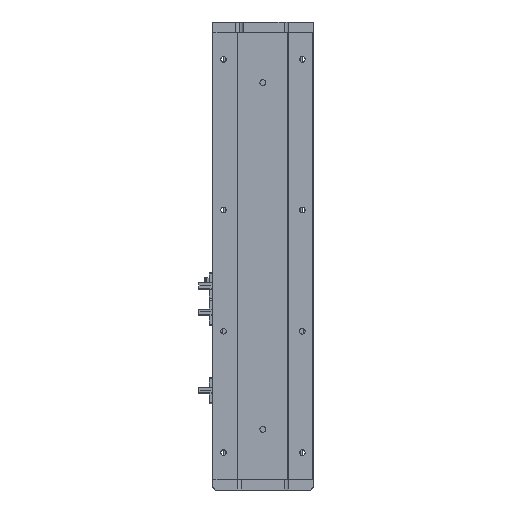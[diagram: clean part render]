
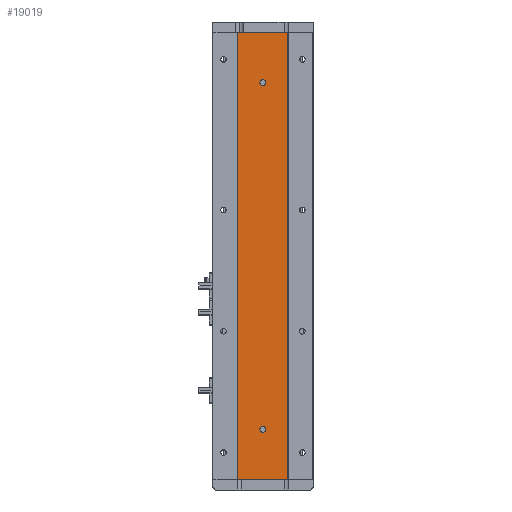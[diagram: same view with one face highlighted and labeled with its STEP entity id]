
A CAD part, left-side view. The second image highlights one B-rep face of the part: STEP entity #19019.
In plain terms, the highlighted planar face has unit normal (-1, 0, 0).
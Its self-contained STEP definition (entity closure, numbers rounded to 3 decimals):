
#398 = LINE ( 'NONE', #13412, #19775 ) ;
#611 = DIRECTION ( 'NONE',  ( 0., 0., 1. ) ) ;
#987 = ORIENTED_EDGE ( 'NONE', *, *, #6257, .F. ) ;
#1188 = CIRCLE ( 'NONE', #12971, 3. ) ;
#1817 = CARTESIAN_POINT ( 'NONE',  ( -18.926, 0., 393. ) ) ;
#2099 = EDGE_CURVE ( 'NONE', #3417, #12326, #11449, .T. ) ;
#2176 = CARTESIAN_POINT ( 'NONE',  ( -18.926, 0., 53. ) ) ;
#2320 = CARTESIAN_POINT ( 'NONE',  ( -18.926, 24.785, 443. ) ) ;
#2608 = CIRCLE ( 'NONE', #16585, 3. ) ;
#2697 = VERTEX_POINT ( 'NONE', #20664 ) ;
#2779 = FACE_BOUND ( 'NONE', #17989, .T. ) ;
#3417 = VERTEX_POINT ( 'NONE', #9928 ) ;
#3690 = DIRECTION ( 'NONE',  ( -1., 0., 0. ) ) ;
#4888 = DIRECTION ( 'NONE',  ( 0., 0., -1. ) ) ;
#5360 = PLANE ( 'NONE',  #18606 ) ;
#5548 = DIRECTION ( 'NONE',  ( 1., 0., 0. ) ) ;
#5567 = EDGE_CURVE ( 'NONE', #2697, #24653, #1188, .T. ) ;
#5812 = DIRECTION ( 'NONE',  ( 0., 0., 1. ) ) ;
#5907 = CARTESIAN_POINT ( 'NONE',  ( -18.926, 24.785, 443. ) ) ;
#6076 = EDGE_CURVE ( 'NONE', #31640, #3417, #18549, .T. ) ;
#6257 = EDGE_CURVE ( 'NONE', #24653, #2697, #22484, .T. ) ;
#8122 = DIRECTION ( 'NONE',  ( -1., 0., 0. ) ) ;
#8232 = CARTESIAN_POINT ( 'NONE',  ( -18.926, 0., 393. ) ) ;
#9512 = EDGE_CURVE ( 'NONE', #17978, #22106, #2608, .T. ) ;
#9928 = CARTESIAN_POINT ( 'NONE',  ( -18.926, -24.785, 443. ) ) ;
#10062 = DIRECTION ( 'NONE',  ( -1., 0., 0. ) ) ;
#10479 = CIRCLE ( 'NONE', #17317, 3. ) ;
#11449 = LINE ( 'NONE', #31347, #30609 ) ;
#11643 = CARTESIAN_POINT ( 'NONE',  ( -18.926, 0., 396. ) ) ;
#11846 = VECTOR ( 'NONE', #28493, 1000. ) ;
#12326 = VERTEX_POINT ( 'NONE', #23817 ) ;
#12667 = LINE ( 'NONE', #2320, #31775 ) ;
#12971 = AXIS2_PLACEMENT_3D ( 'NONE', #8232, #8122, #5812 ) ;
#13282 = EDGE_CURVE ( 'NONE', #22106, #17978, #10479, .T. ) ;
#13412 = CARTESIAN_POINT ( 'NONE',  ( -18.926, 24.785, 0. ) ) ;
#15831 = EDGE_LOOP ( 'NONE', ( #22672, #28177, #20631, #24550 ) ) ;
#15940 = CARTESIAN_POINT ( 'NONE',  ( -18.926, 24.785, 0. ) ) ;
#16585 = AXIS2_PLACEMENT_3D ( 'NONE', #18828, #3690, #21338 ) ;
#17317 = AXIS2_PLACEMENT_3D ( 'NONE', #25140, #10062, #27593 ) ;
#17978 = VERTEX_POINT ( 'NONE', #30560 ) ;
#17989 = EDGE_LOOP ( 'NONE', ( #987, #20068 ) ) ;
#18549 = LINE ( 'NONE', #5907, #11846 ) ;
#18606 = AXIS2_PLACEMENT_3D ( 'NONE', #20659, #5548, #23174 ) ;
#18828 = CARTESIAN_POINT ( 'NONE',  ( -18.926, 0., 50. ) ) ;
#19019 = ADVANCED_FACE ( 'NONE', ( #2779, #27136, #20549 ), #5360, .F. ) ;
#19494 = DIRECTION ( 'NONE',  ( -1., 0., 0. ) ) ;
#19775 = VECTOR ( 'NONE', #30865, 1000. ) ;
#20068 = ORIENTED_EDGE ( 'NONE', *, *, #5567, .F. ) ;
#20549 = FACE_OUTER_BOUND ( 'NONE', #15831, .T. ) ;
#20631 = ORIENTED_EDGE ( 'NONE', *, *, #6076, .F. ) ;
#20659 = CARTESIAN_POINT ( 'NONE',  ( -18.926, 24.785, 443. ) ) ;
#20664 = CARTESIAN_POINT ( 'NONE',  ( -18.926, 0., 390. ) ) ;
#21338 = DIRECTION ( 'NONE',  ( 0., 0., 1. ) ) ;
#22106 = VERTEX_POINT ( 'NONE', #2176 ) ;
#22484 = CIRCLE ( 'NONE', #26189, 3. ) ;
#22672 = ORIENTED_EDGE ( 'NONE', *, *, #24464, .T. ) ;
#23174 = DIRECTION ( 'NONE',  ( 0., 0., -1. ) ) ;
#23817 = CARTESIAN_POINT ( 'NONE',  ( -18.926, -24.785, 0. ) ) ;
#24464 = EDGE_CURVE ( 'NONE', #30955, #12326, #398, .T. ) ;
#24550 = ORIENTED_EDGE ( 'NONE', *, *, #30160, .T. ) ;
#24653 = VERTEX_POINT ( 'NONE', #11643 ) ;
#25140 = CARTESIAN_POINT ( 'NONE',  ( -18.926, 0., 50. ) ) ;
#26189 = AXIS2_PLACEMENT_3D ( 'NONE', #1817, #19494, #611 ) ;
#27136 = FACE_BOUND ( 'NONE', #30667, .T. ) ;
#27593 = DIRECTION ( 'NONE',  ( 0., 0., 1. ) ) ;
#28177 = ORIENTED_EDGE ( 'NONE', *, *, #2099, .F. ) ;
#28493 = DIRECTION ( 'NONE',  ( 0., -1., 0. ) ) ;
#28627 = CARTESIAN_POINT ( 'NONE',  ( -18.926, 24.785, 443. ) ) ;
#30153 = ORIENTED_EDGE ( 'NONE', *, *, #13282, .F. ) ;
#30160 = EDGE_CURVE ( 'NONE', #31640, #30955, #12667, .T. ) ;
#30560 = CARTESIAN_POINT ( 'NONE',  ( -18.926, 0., 47. ) ) ;
#30609 = VECTOR ( 'NONE', #31379, 1000. ) ;
#30667 = EDGE_LOOP ( 'NONE', ( #30153, #31568 ) ) ;
#30865 = DIRECTION ( 'NONE',  ( 0., -1., 0. ) ) ;
#30955 = VERTEX_POINT ( 'NONE', #15940 ) ;
#31347 = CARTESIAN_POINT ( 'NONE',  ( -18.926, -24.785, 443. ) ) ;
#31379 = DIRECTION ( 'NONE',  ( 0., 0., -1. ) ) ;
#31568 = ORIENTED_EDGE ( 'NONE', *, *, #9512, .F. ) ;
#31640 = VERTEX_POINT ( 'NONE', #28627 ) ;
#31775 = VECTOR ( 'NONE', #4888, 1000. ) ;
